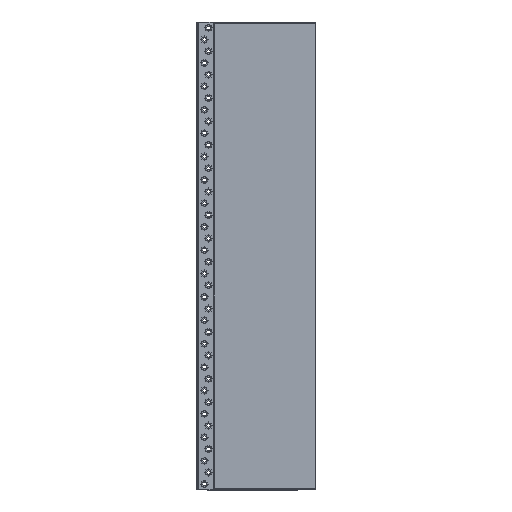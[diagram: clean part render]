
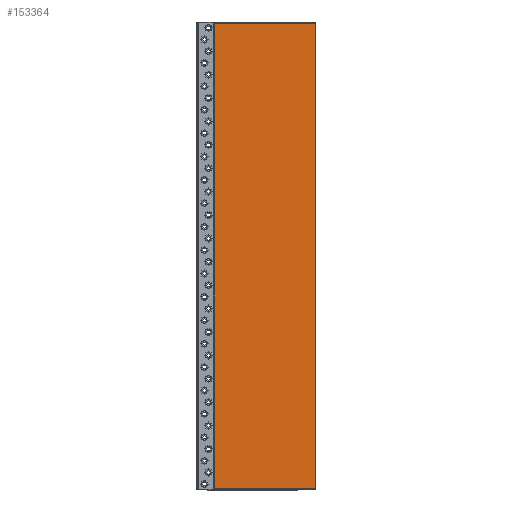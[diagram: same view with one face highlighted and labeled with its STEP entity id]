
A CAD part, top view. The second image highlights one B-rep face of the part: STEP entity #153364.
In plain terms, the highlighted planar face has unit normal (0, 0, 1).
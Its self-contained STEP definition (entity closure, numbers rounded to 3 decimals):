
#153050 = VERTEX_POINT('',#153051);
#153051 = CARTESIAN_POINT('',(4915.74,3.,
    0.));
#153058 = PLANE('',#153059);
#153059 = AXIS2_PLACEMENT_3D('',#153060,#153061,#153062);
#153060 = CARTESIAN_POINT('',(4915.74,3.,
    -25.));
#153061 = DIRECTION('',(0.,1.,0.));
#153062 = DIRECTION('',(1.,0.,0.));
#153070 = PLANE('',#153071);
#153071 = AXIS2_PLACEMENT_3D('',#153072,#153073,#153074);
#153072 = CARTESIAN_POINT('',(4915.74,797.,
    -25.));
#153073 = DIRECTION('',(1.,0.,0.));
#153074 = DIRECTION('',(0.,-1.,0.));
#153082 = EDGE_CURVE('',#153050,#153083,#153085,.T.);
#153083 = VERTEX_POINT('',#153084);
#153084 = CARTESIAN_POINT('',(5088.74,3.,
    0.));
#153085 = SURFACE_CURVE('',#153086,(#153090,#153097),.PCURVE_S1.);
#153086 = LINE('',#153087,#153088);
#153087 = CARTESIAN_POINT('',(4915.74,3.,
    0.));
#153088 = VECTOR('',#153089,1.);
#153089 = DIRECTION('',(1.,0.,0.));
#153090 = PCURVE('',#153058,#153091);
#153091 = DEFINITIONAL_REPRESENTATION('',(#153092),#153096);
#153092 = LINE('',#153093,#153094);
#153093 = CARTESIAN_POINT('',(0.,-25.));
#153094 = VECTOR('',#153095,1.);
#153095 = DIRECTION('',(1.,0.));
#153096 = ( GEOMETRIC_REPRESENTATION_CONTEXT(2) 
PARAMETRIC_REPRESENTATION_CONTEXT() REPRESENTATION_CONTEXT('2D SPACE',''
  ) );
#153097 = PCURVE('',#153098,#153103);
#153098 = PLANE('',#153099);
#153099 = AXIS2_PLACEMENT_3D('',#153100,#153101,#153102);
#153100 = CARTESIAN_POINT('',(5002.24,400.,
    0.));
#153101 = DIRECTION('',(0.,0.,1.));
#153102 = DIRECTION('',(1.,0.,0.));
#153103 = DEFINITIONAL_REPRESENTATION('',(#153104),#153108);
#153104 = LINE('',#153105,#153106);
#153105 = CARTESIAN_POINT('',(-86.5,-397.));
#153106 = VECTOR('',#153107,1.);
#153107 = DIRECTION('',(1.,0.));
#153108 = ( GEOMETRIC_REPRESENTATION_CONTEXT(2) 
PARAMETRIC_REPRESENTATION_CONTEXT() REPRESENTATION_CONTEXT('2D SPACE',''
  ) );
#153126 = PLANE('',#153127);
#153127 = AXIS2_PLACEMENT_3D('',#153128,#153129,#153130);
#153128 = CARTESIAN_POINT('',(5088.74,3.,
    -25.));
#153129 = DIRECTION('',(-1.,0.,0.));
#153130 = DIRECTION('',(0.,1.,0.));
#153168 = EDGE_CURVE('',#153083,#153169,#153171,.T.);
#153169 = VERTEX_POINT('',#153170);
#153170 = CARTESIAN_POINT('',(5088.74,797.,
    0.));
#153171 = SURFACE_CURVE('',#153172,(#153176,#153183),.PCURVE_S1.);
#153172 = LINE('',#153173,#153174);
#153173 = CARTESIAN_POINT('',(5088.74,3.,
    0.));
#153174 = VECTOR('',#153175,1.);
#153175 = DIRECTION('',(0.,1.,0.));
#153176 = PCURVE('',#153126,#153177);
#153177 = DEFINITIONAL_REPRESENTATION('',(#153178),#153182);
#153178 = LINE('',#153179,#153180);
#153179 = CARTESIAN_POINT('',(0.,-25.));
#153180 = VECTOR('',#153181,1.);
#153181 = DIRECTION('',(1.,0.));
#153182 = ( GEOMETRIC_REPRESENTATION_CONTEXT(2) 
PARAMETRIC_REPRESENTATION_CONTEXT() REPRESENTATION_CONTEXT('2D SPACE',''
  ) );
#153183 = PCURVE('',#153098,#153184);
#153184 = DEFINITIONAL_REPRESENTATION('',(#153185),#153189);
#153185 = LINE('',#153186,#153187);
#153186 = CARTESIAN_POINT('',(86.5,-397.));
#153187 = VECTOR('',#153188,1.);
#153188 = DIRECTION('',(0.,1.));
#153189 = ( GEOMETRIC_REPRESENTATION_CONTEXT(2) 
PARAMETRIC_REPRESENTATION_CONTEXT() REPRESENTATION_CONTEXT('2D SPACE',''
  ) );
#153207 = PLANE('',#153208);
#153208 = AXIS2_PLACEMENT_3D('',#153209,#153210,#153211);
#153209 = CARTESIAN_POINT('',(5088.74,797.,
    -25.));
#153210 = DIRECTION('',(0.,-1.,0.));
#153211 = DIRECTION('',(-1.,0.,0.));
#153244 = EDGE_CURVE('',#153169,#153245,#153247,.T.);
#153245 = VERTEX_POINT('',#153246);
#153246 = CARTESIAN_POINT('',(4915.74,797.,
    0.));
#153247 = SURFACE_CURVE('',#153248,(#153252,#153259),.PCURVE_S1.);
#153248 = LINE('',#153249,#153250);
#153249 = CARTESIAN_POINT('',(5088.74,797.,
    0.));
#153250 = VECTOR('',#153251,1.);
#153251 = DIRECTION('',(-1.,0.,0.));
#153252 = PCURVE('',#153207,#153253);
#153253 = DEFINITIONAL_REPRESENTATION('',(#153254),#153258);
#153254 = LINE('',#153255,#153256);
#153255 = CARTESIAN_POINT('',(0.,-25.));
#153256 = VECTOR('',#153257,1.);
#153257 = DIRECTION('',(1.,0.));
#153258 = ( GEOMETRIC_REPRESENTATION_CONTEXT(2) 
PARAMETRIC_REPRESENTATION_CONTEXT() REPRESENTATION_CONTEXT('2D SPACE',''
  ) );
#153259 = PCURVE('',#153098,#153260);
#153260 = DEFINITIONAL_REPRESENTATION('',(#153261),#153265);
#153261 = LINE('',#153262,#153263);
#153262 = CARTESIAN_POINT('',(86.5,397.));
#153263 = VECTOR('',#153264,1.);
#153264 = DIRECTION('',(-1.,0.));
#153265 = ( GEOMETRIC_REPRESENTATION_CONTEXT(2) 
PARAMETRIC_REPRESENTATION_CONTEXT() REPRESENTATION_CONTEXT('2D SPACE',''
  ) );
#153315 = EDGE_CURVE('',#153245,#153050,#153316,.T.);
#153316 = SURFACE_CURVE('',#153317,(#153321,#153328),.PCURVE_S1.);
#153317 = LINE('',#153318,#153319);
#153318 = CARTESIAN_POINT('',(4915.74,797.,
    0.));
#153319 = VECTOR('',#153320,1.);
#153320 = DIRECTION('',(0.,-1.,0.));
#153321 = PCURVE('',#153070,#153322);
#153322 = DEFINITIONAL_REPRESENTATION('',(#153323),#153327);
#153323 = LINE('',#153324,#153325);
#153324 = CARTESIAN_POINT('',(0.,-25.));
#153325 = VECTOR('',#153326,1.);
#153326 = DIRECTION('',(1.,0.));
#153327 = ( GEOMETRIC_REPRESENTATION_CONTEXT(2) 
PARAMETRIC_REPRESENTATION_CONTEXT() REPRESENTATION_CONTEXT('2D SPACE',''
  ) );
#153328 = PCURVE('',#153098,#153329);
#153329 = DEFINITIONAL_REPRESENTATION('',(#153330),#153334);
#153330 = LINE('',#153331,#153332);
#153331 = CARTESIAN_POINT('',(-86.5,397.));
#153332 = VECTOR('',#153333,1.);
#153333 = DIRECTION('',(0.,-1.));
#153334 = ( GEOMETRIC_REPRESENTATION_CONTEXT(2) 
PARAMETRIC_REPRESENTATION_CONTEXT() REPRESENTATION_CONTEXT('2D SPACE',''
  ) );
#153364 = ADVANCED_FACE('',(#153365),#153098,.T.);
#153365 = FACE_BOUND('',#153366,.T.);
#153366 = EDGE_LOOP('',(#153367,#153368,#153369,#153370));
#153367 = ORIENTED_EDGE('',*,*,#153082,.T.);
#153368 = ORIENTED_EDGE('',*,*,#153168,.T.);
#153369 = ORIENTED_EDGE('',*,*,#153244,.T.);
#153370 = ORIENTED_EDGE('',*,*,#153315,.T.);
